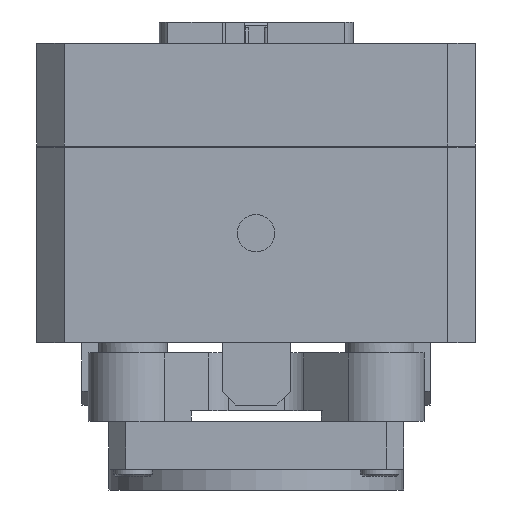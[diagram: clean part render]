
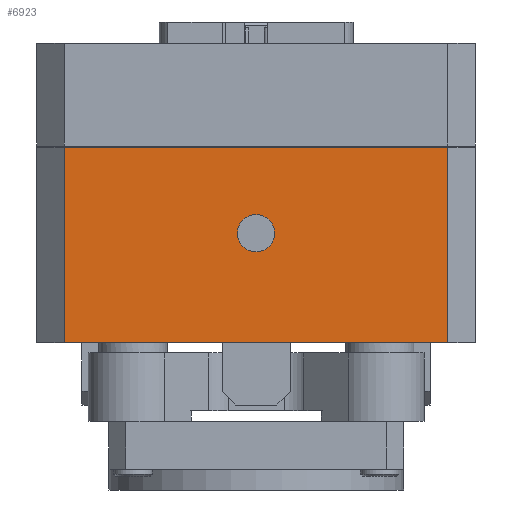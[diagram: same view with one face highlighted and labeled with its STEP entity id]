
A CAD part, front view. The second image highlights one B-rep face of the part: STEP entity #6923.
In plain terms, the highlighted planar face has unit normal (0, -1, 0).
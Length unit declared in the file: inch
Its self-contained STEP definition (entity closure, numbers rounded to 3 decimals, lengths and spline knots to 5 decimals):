
#595 = CARTESIAN_POINT ( 'NONE',  ( -0.001, -0.799, 0.912 ) ) ;
#596 = DIRECTION ( 'NONE',  ( 0., -1., 0. ) ) ;
#597 = DIRECTION ( 'NONE',  ( 0., 0., 1. ) ) ;
#2072 = VERTEX_POINT ( 'NONE', #12523 ) ;
#2166 = VERTEX_POINT ( 'NONE', #12591 ) ;
#2222 = VERTEX_POINT ( 'NONE', #12484 ) ;
#2247 = VERTEX_POINT ( 'NONE', #12298 ) ;
#2417 = VERTEX_POINT ( 'NONE', #12302 ) ;
#2658 = LINE ( 'NONE', #2902, #5325 ) ;
#2758 = DIRECTION ( 'NONE',  ( -1., 0., 0. ) ) ;
#2902 = CARTESIAN_POINT ( 'NONE',  ( 0.799, -0.799, 0.512 ) ) ;
#2985 = LINE ( 'NONE', #2987, #5040 ) ;
#2986 = CARTESIAN_POINT ( 'NONE',  ( 0.699, -0.799, 0.512 ) ) ;
#2987 = CARTESIAN_POINT ( 'NONE',  ( -0.701, -0.799, 0.512 ) ) ;
#2988 = DIRECTION ( 'NONE',  ( 0., 0., -1. ) ) ;
#2990 = LINE ( 'NONE', #2986, #5441 ) ;
#2991 = CARTESIAN_POINT ( 'NONE',  ( -0.001, -0.799, 0.912 ) ) ;
#2992 = DIRECTION ( 'NONE',  ( 0., -1., 0. ) ) ;
#2993 = DIRECTION ( 'NONE',  ( 0., 0., 1. ) ) ;
#2995 = DIRECTION ( 'NONE',  ( 0., 0., 1. ) ) ;
#2996 = LINE ( 'NONE', #2998, #5430 ) ;
#2998 = CARTESIAN_POINT ( 'NONE',  ( -0.701, -0.799, 1.225 ) ) ;
#2999 = DIRECTION ( 'NONE',  ( 1., 0., 0. ) ) ;
#5040 = VECTOR ( 'NONE', #2988, 39.37008 ) ;
#5074 = CIRCLE ( 'NONE', #5075, 0.068 ) ;
#5075 = AXIS2_PLACEMENT_3D ( 'NONE', #595, #596, #597 ) ;
#5325 = VECTOR ( 'NONE', #2758, 39.37008 ) ;
#5430 = VECTOR ( 'NONE', #2999, 39.37008 ) ;
#5434 = AXIS2_PLACEMENT_3D ( 'NONE', #2991, #2992, #2993 ) ;
#5441 = VECTOR ( 'NONE', #2995, 39.37008 ) ;
#5442 = CIRCLE ( 'NONE', #5434, 0.068 ) ;
#5553 = CARTESIAN_POINT ( 'NONE',  ( 0.699, -0.799, 1.225 ) ) ;
#5986 = EDGE_CURVE ( 'NONE', #2222, #2247, #2985, .T. ) ;
#5987 = EDGE_CURVE ( 'NONE', #2072, #2166, #5442, .T. ) ;
#5988 = EDGE_CURVE ( 'NONE', #2417, #12743, #2990, .T. ) ;
#5989 = EDGE_CURVE ( 'NONE', #2222, #12743, #2996, .T. ) ;
#6124 = EDGE_CURVE ( 'NONE', #2417, #2247, #2658, .T. ) ;
#6254 = EDGE_CURVE ( 'NONE', #2166, #2072, #5074, .T. ) ;
#6923 = ADVANCED_FACE ( 'NONE', ( #12098, #12099 ), #12100, .F. ) ;
#7716 = ORIENTED_EDGE ( 'NONE', *, *, #5988, .T. ) ;
#8085 = ORIENTED_EDGE ( 'NONE', *, *, #6254, .F. ) ;
#8158 = ORIENTED_EDGE ( 'NONE', *, *, #6124, .F. ) ;
#8280 = ORIENTED_EDGE ( 'NONE', *, *, #5987, .F. ) ;
#8320 = ORIENTED_EDGE ( 'NONE', *, *, #5989, .F. ) ;
#8522 = ORIENTED_EDGE ( 'NONE', *, *, #5986, .T. ) ;
#8839 = EDGE_LOOP ( 'NONE', ( #8280, #8085 ) ) ;
#9587 = EDGE_LOOP ( 'NONE', ( #7716, #8320, #8522, #8158 ) ) ;
#12088 = CARTESIAN_POINT ( 'NONE',  ( 0.799, -0.799, 0.512 ) ) ;
#12098 = FACE_BOUND ( 'NONE', #8839, .T. ) ;
#12099 = FACE_OUTER_BOUND ( 'NONE', #9587, .T. ) ;
#12100 = PLANE ( 'NONE',  #12861 ) ;
#12102 = DIRECTION ( 'NONE',  ( 0., 1., 0. ) ) ;
#12103 = DIRECTION ( 'NONE',  ( 0., 0., -1. ) ) ;
#12298 = CARTESIAN_POINT ( 'NONE',  ( -0.701, -0.799, 0.512 ) ) ;
#12302 = CARTESIAN_POINT ( 'NONE',  ( 0.699, -0.799, 0.512 ) ) ;
#12484 = CARTESIAN_POINT ( 'NONE',  ( -0.701, -0.799, 1.225 ) ) ;
#12523 = CARTESIAN_POINT ( 'NONE',  ( -0.001, -0.799, 0.98 ) ) ;
#12591 = CARTESIAN_POINT ( 'NONE',  ( -0.001, -0.799, 0.844 ) ) ;
#12743 = VERTEX_POINT ( 'NONE', #5553 ) ;
#12861 = AXIS2_PLACEMENT_3D ( 'NONE', #12088, #12102, #12103 ) ;
